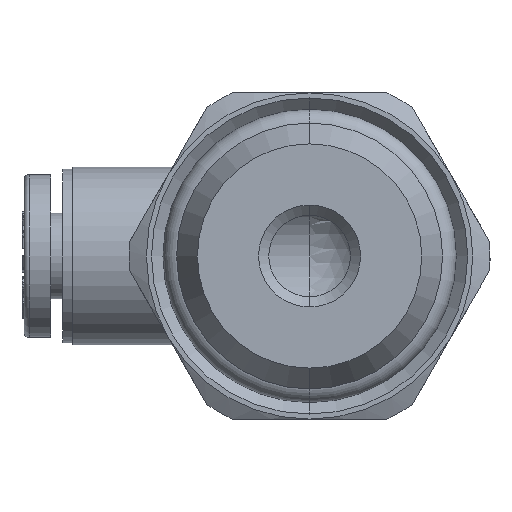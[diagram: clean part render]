
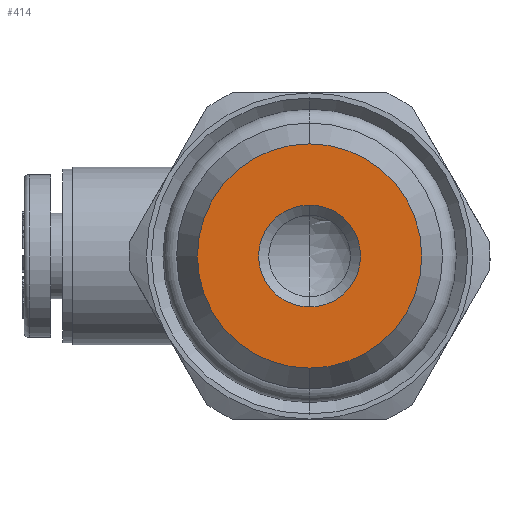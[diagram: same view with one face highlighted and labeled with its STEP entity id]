
A CAD part, front view. The second image highlights one B-rep face of the part: STEP entity #414.
In plain terms, the highlighted planar face has unit normal (0, -1, 0).
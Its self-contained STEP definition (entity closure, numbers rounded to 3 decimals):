
#245 = DIRECTION ( 'NONE',  ( 0., 1., 0. ) ) ;
#414 = ADVANCED_FACE ( 'NONE', ( #6680, #998 ), #2461, .T. ) ;
#481 = AXIS2_PLACEMENT_3D ( 'NONE', #664, #8094, #1738 ) ;
#664 = CARTESIAN_POINT ( 'NONE',  ( 0., -7.1, 0. ) ) ;
#888 = VERTEX_POINT ( 'NONE', #6428 ) ;
#998 = FACE_OUTER_BOUND ( 'NONE', #4375, .T. ) ;
#1560 = CARTESIAN_POINT ( 'NONE',  ( 0., -7.1, -5.5 ) ) ;
#1738 = DIRECTION ( 'NONE',  ( 0., 0., -1. ) ) ;
#2137 = CIRCLE ( 'NONE', #8297, 2.5 ) ;
#2280 = VERTEX_POINT ( 'NONE', #1560 ) ;
#2408 = DIRECTION ( 'NONE',  ( 0., 0., -1. ) ) ;
#2453 = DIRECTION ( 'NONE',  ( 0., -1., 0. ) ) ;
#2461 = PLANE ( 'NONE',  #3617 ) ;
#2498 = CARTESIAN_POINT ( 'NONE',  ( 0., -7.1, 0. ) ) ;
#3302 = DIRECTION ( 'NONE',  ( 0., 1., 0. ) ) ;
#3370 = EDGE_LOOP ( 'NONE', ( #3644, #3536 ) ) ;
#3536 = ORIENTED_EDGE ( 'NONE', *, *, #6899, .T. ) ;
#3617 = AXIS2_PLACEMENT_3D ( 'NONE', #2498, #2453, #2408 ) ;
#3644 = ORIENTED_EDGE ( 'NONE', *, *, #13460, .T. ) ;
#3766 = CIRCLE ( 'NONE', #9713, 2.5 ) ;
#4375 = EDGE_LOOP ( 'NONE', ( #8259, #6851 ) ) ;
#4551 = EDGE_CURVE ( 'NONE', #2280, #8210, #6074, .T. ) ;
#4742 = CARTESIAN_POINT ( 'NONE',  ( 0., -7.1, 0. ) ) ;
#5014 = EDGE_CURVE ( 'NONE', #8210, #2280, #5241, .T. ) ;
#5241 = CIRCLE ( 'NONE', #6714, 5.5 ) ;
#5827 = DIRECTION ( 'NONE',  ( 0., 0., -1. ) ) ;
#6074 = CIRCLE ( 'NONE', #481, 5.5 ) ;
#6428 = CARTESIAN_POINT ( 'NONE',  ( 0., -7.1, -2.5 ) ) ;
#6600 = CARTESIAN_POINT ( 'NONE',  ( 0., -7.1, 0. ) ) ;
#6680 = FACE_BOUND ( 'NONE', #3370, .T. ) ;
#6714 = AXIS2_PLACEMENT_3D ( 'NONE', #4742, #12194, #5827 ) ;
#6851 = ORIENTED_EDGE ( 'NONE', *, *, #4551, .T. ) ;
#6899 = EDGE_CURVE ( 'NONE', #12265, #888, #2137, .T. ) ;
#7655 = DIRECTION ( 'NONE',  ( 0., 0., -1. ) ) ;
#8094 = DIRECTION ( 'NONE',  ( 0., -1., 0. ) ) ;
#8209 = CARTESIAN_POINT ( 'NONE',  ( 0., -7.1, 5.5 ) ) ;
#8210 = VERTEX_POINT ( 'NONE', #8209 ) ;
#8259 = ORIENTED_EDGE ( 'NONE', *, *, #5014, .T. ) ;
#8297 = AXIS2_PLACEMENT_3D ( 'NONE', #9683, #3302, #10757 ) ;
#9683 = CARTESIAN_POINT ( 'NONE',  ( 0., -7.1, 0. ) ) ;
#9713 = AXIS2_PLACEMENT_3D ( 'NONE', #6600, #245, #7655 ) ;
#10757 = DIRECTION ( 'NONE',  ( 0., 0., -1. ) ) ;
#12188 = CARTESIAN_POINT ( 'NONE',  ( 0., -7.1, 2.5 ) ) ;
#12194 = DIRECTION ( 'NONE',  ( 0., -1., 0. ) ) ;
#12265 = VERTEX_POINT ( 'NONE', #12188 ) ;
#13460 = EDGE_CURVE ( 'NONE', #888, #12265, #3766, .T. ) ;
